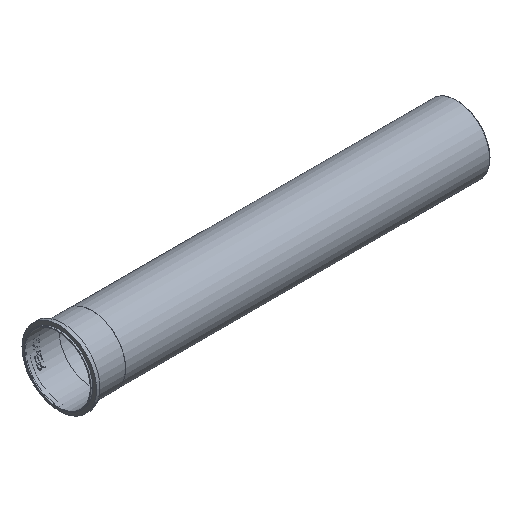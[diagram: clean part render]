
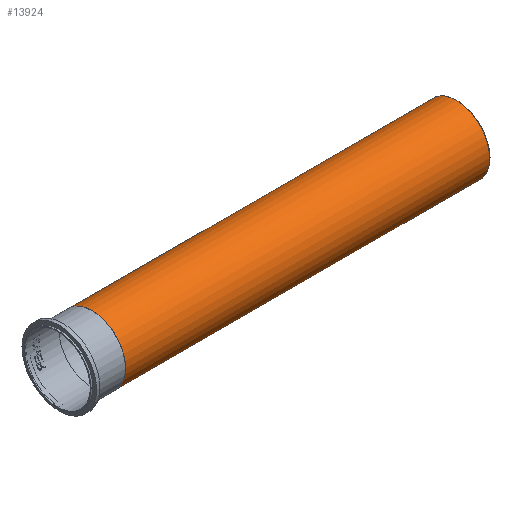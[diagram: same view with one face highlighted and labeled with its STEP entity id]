
A CAD part, isometric view. The second image highlights one B-rep face of the part: STEP entity #13924.
In plain terms, the highlighted cylindrical face has radius 62.484 mm (diameter 124.968 mm), a full revolution.
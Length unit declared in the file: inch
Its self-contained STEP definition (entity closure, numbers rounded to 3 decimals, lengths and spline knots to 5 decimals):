
#13893=CARTESIAN_POINT('',(2.56,2.46,0.0));
#13894=VERTEX_POINT('',#13893);
#13895=CARTESIAN_POINT('',(2.56,0.0,0.0));
#13896=DIRECTION('',(1.0,0.0,0.0));
#13897=DIRECTION('',(0.0,1.0,0.0));
#13898=AXIS2_PLACEMENT_3D('',#13895,#13896,#13897);
#13899=CIRCLE('',#13898,2.46);
#13900=EDGE_CURVE('',#13894,#13894,#13899,.T.);
#13905=CARTESIAN_POINT('',(16.04378,0.0,0.0));
#13906=DIRECTION('',(1.0,0.0,0.0));
#13907=DIRECTION('',(0.0,1.0,0.0));
#13908=AXIS2_PLACEMENT_3D('',#13905,#13906,#13907);
#13909=CYLINDRICAL_SURFACE('',#13908,2.46);
#13910=CARTESIAN_POINT('',(29.52756,2.46,0.0));
#13911=VERTEX_POINT('',#13910);
#13912=CARTESIAN_POINT('',(29.52756,0.0,0.0));
#13913=DIRECTION('',(1.0,0.0,0.0));
#13914=DIRECTION('',(0.0,1.0,0.0));
#13915=AXIS2_PLACEMENT_3D('',#13912,#13913,#13914);
#13916=CIRCLE('',#13915,2.46);
#13917=EDGE_CURVE('',#13911,#13911,#13916,.T.);
#13918=ORIENTED_EDGE('',*,*,#13917,.F.);
#13919=EDGE_LOOP('',(#13918));
#13920=FACE_OUTER_BOUND('',#13919,.T.);
#13921=ORIENTED_EDGE('',*,*,#13900,.T.);
#13922=EDGE_LOOP('',(#13921));
#13923=FACE_BOUND('',#13922,.T.);
#13924=ADVANCED_FACE('',(#13920,#13923),#13909,.T.);
